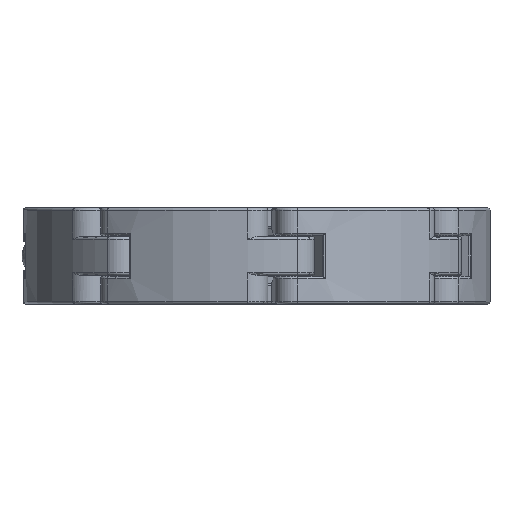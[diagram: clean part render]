
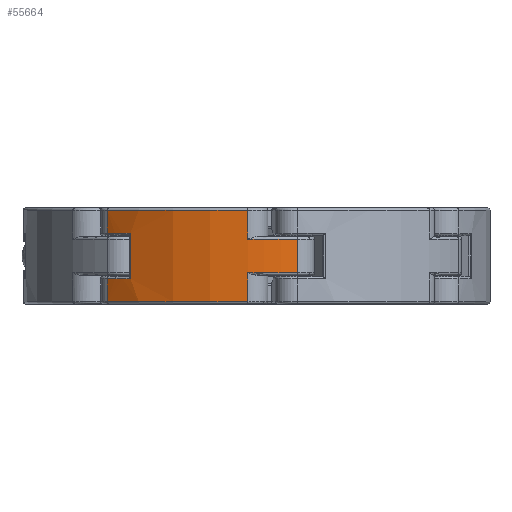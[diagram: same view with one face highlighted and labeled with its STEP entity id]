
A CAD part, left-side view. The second image highlights one B-rep face of the part: STEP entity #55664.
In plain terms, the highlighted cylindrical face has radius 48.5 mm (diameter 97 mm), a partial arc.
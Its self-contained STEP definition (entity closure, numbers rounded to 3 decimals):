
#275=CARTESIAN_POINT('',(-48.46,1.958,-9.5));
#276=VERTEX_POINT('',#275);
#328=CARTESIAN_POINT('',(-37.153,31.175,-9.5));
#329=VERTEX_POINT('',#328);
#363=CARTESIAN_POINT('',(-47.763,-8.422,-3.5));
#364=VERTEX_POINT('',#363);
#416=CARTESIAN_POINT('',(-47.763,-8.422,3.5));
#417=VERTEX_POINT('',#416);
#55347=CARTESIAN_POINT('',(-48.46,1.958,3.5));
#55348=VERTEX_POINT('',#55347);
#55384=CARTESIAN_POINT('',(0.0,0.0,3.5));
#55385=DIRECTION('',(0.0,0.0,-1.));
#55386=DIRECTION('',(-0.766,0.643,0.0));
#55387=AXIS2_PLACEMENT_3D('',#55384,#55385,#55386);
#55388=CIRCLE('',#55387,48.5);
#55389=EDGE_CURVE('',#55348,#417,#55388,.F.);
#55557=CARTESIAN_POINT('',(-47.763,-8.422,-3.5));
#55558=DIRECTION('',(0.0,0.0,1.0));
#55559=VECTOR('',#55558,7.);
#55560=LINE('',#55557,#55559);
#55561=EDGE_CURVE('',#417,#364,#55560,.F.);
#55576=CARTESIAN_POINT('',(0.0,0.0,0.0));
#55577=DIRECTION('',(0.0,0.0,-1.0));
#55578=DIRECTION('',(-0.766,0.643,0.0));
#55579=AXIS2_PLACEMENT_3D('',#55576,#55577,#55578);
#55580=CYLINDRICAL_SURFACE('',#55579,48.5);
#55581=ORIENTED_EDGE('',*,*,#55389,.F.);
#55582=CARTESIAN_POINT('',(-48.46,1.958,9.5));
#55583=VERTEX_POINT('',#55582);
#55584=CARTESIAN_POINT('',(-48.46,1.958,9.5));
#55585=DIRECTION('',(0.0,0.0,-1.0));
#55586=VECTOR('',#55585,6.);
#55587=LINE('',#55584,#55586);
#55588=EDGE_CURVE('',#55348,#55583,#55587,.F.);
#55589=ORIENTED_EDGE('',*,*,#55588,.T.);
#55590=CARTESIAN_POINT('',(-37.153,31.175,9.5));
#55591=VERTEX_POINT('',#55590);
#55592=CARTESIAN_POINT('',(0.0,0.0,9.5));
#55593=DIRECTION('',(0.0,0.0,-1.));
#55594=DIRECTION('',(-0.766,0.643,0.0));
#55595=AXIS2_PLACEMENT_3D('',#55592,#55593,#55594);
#55596=CIRCLE('',#55595,48.5);
#55597=EDGE_CURVE('',#55591,#55583,#55596,.F.);
#55598=ORIENTED_EDGE('',*,*,#55597,.F.);
#55599=CARTESIAN_POINT('',(-37.153,31.175,4.75));
#55600=VERTEX_POINT('',#55599);
#55601=CARTESIAN_POINT('',(-37.153,31.175,9.5));
#55602=DIRECTION('',(0.0,0.0,-1.0));
#55603=VECTOR('',#55602,4.75);
#55604=LINE('',#55601,#55603);
#55605=EDGE_CURVE('',#55600,#55591,#55604,.F.);
#55606=ORIENTED_EDGE('',*,*,#55605,.F.);
#55607=CARTESIAN_POINT('',(-40.698,26.381,4.75));
#55608=VERTEX_POINT('',#55607);
#55609=CARTESIAN_POINT('',(0.0,0.0,4.75));
#55610=DIRECTION('',(0.0,0.0,-1.));
#55611=DIRECTION('',(-0.766,0.643,0.0));
#55612=AXIS2_PLACEMENT_3D('',#55609,#55610,#55611);
#55613=CIRCLE('',#55612,48.5);
#55614=EDGE_CURVE('',#55608,#55600,#55613,.T.);
#55615=ORIENTED_EDGE('',*,*,#55614,.F.);
#55616=CARTESIAN_POINT('',(-40.698,26.381,-4.75));
#55617=VERTEX_POINT('',#55616);
#55618=CARTESIAN_POINT('',(-40.698,26.381,4.75));
#55619=DIRECTION('',(0.0,0.0,-1.0));
#55620=VECTOR('',#55619,9.5);
#55621=LINE('',#55618,#55620);
#55622=EDGE_CURVE('',#55617,#55608,#55621,.F.);
#55623=ORIENTED_EDGE('',*,*,#55622,.F.);
#55624=CARTESIAN_POINT('',(-37.153,31.175,-4.75));
#55625=VERTEX_POINT('',#55624);
#55626=CARTESIAN_POINT('',(0.0,0.0,-4.75));
#55627=DIRECTION('',(0.0,0.0,-1.));
#55628=DIRECTION('',(-0.766,0.643,0.0));
#55629=AXIS2_PLACEMENT_3D('',#55626,#55627,#55628);
#55630=CIRCLE('',#55629,48.5);
#55631=EDGE_CURVE('',#55625,#55617,#55630,.F.);
#55632=ORIENTED_EDGE('',*,*,#55631,.F.);
#55633=CARTESIAN_POINT('',(-37.153,31.175,-4.75));
#55634=DIRECTION('',(0.0,0.0,-1.0));
#55635=VECTOR('',#55634,4.75);
#55636=LINE('',#55633,#55635);
#55637=EDGE_CURVE('',#329,#55625,#55636,.F.);
#55638=ORIENTED_EDGE('',*,*,#55637,.F.);
#55639=CARTESIAN_POINT('',(0.0,0.0,-9.5));
#55640=DIRECTION('',(0.0,0.0,-1.));
#55641=DIRECTION('',(-0.766,0.643,0.0));
#55642=AXIS2_PLACEMENT_3D('',#55639,#55640,#55641);
#55643=CIRCLE('',#55642,48.5);
#55644=EDGE_CURVE('',#276,#329,#55643,.T.);
#55645=ORIENTED_EDGE('',*,*,#55644,.F.);
#55646=CARTESIAN_POINT('',(-48.46,1.958,-3.5));
#55647=VERTEX_POINT('',#55646);
#55648=CARTESIAN_POINT('',(-48.46,1.958,-3.5));
#55649=DIRECTION('',(0.0,0.0,-1.0));
#55650=VECTOR('',#55649,6.);
#55651=LINE('',#55648,#55650);
#55652=EDGE_CURVE('',#55647,#276,#55651,.T.);
#55653=ORIENTED_EDGE('',*,*,#55652,.F.);
#55654=CARTESIAN_POINT('',(0.0,0.0,-3.5));
#55655=DIRECTION('',(0.0,0.0,-1.));
#55656=DIRECTION('',(-0.766,0.643,0.0));
#55657=AXIS2_PLACEMENT_3D('',#55654,#55655,#55656);
#55658=CIRCLE('',#55657,48.5);
#55659=EDGE_CURVE('',#364,#55647,#55658,.T.);
#55660=ORIENTED_EDGE('',*,*,#55659,.F.);
#55661=ORIENTED_EDGE('',*,*,#55561,.F.);
#55662=EDGE_LOOP('',(#55581,#55589,#55598,#55606,#55615,#55623,#55632,#55638,#55645,#55653,#55660,#55661));
#55663=FACE_OUTER_BOUND('',#55662,.T.);
#55664=ADVANCED_FACE('',(#55663),#55580,.T.);
